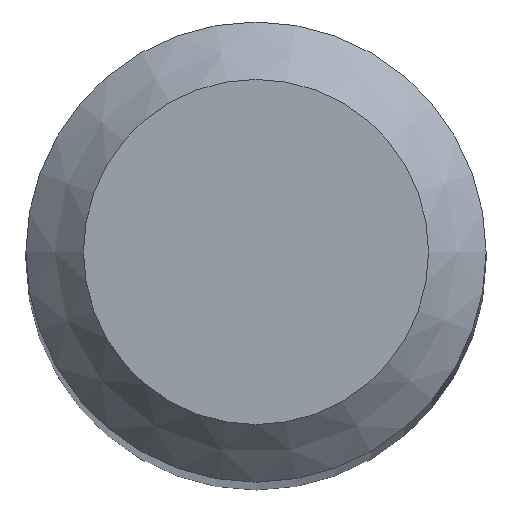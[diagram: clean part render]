
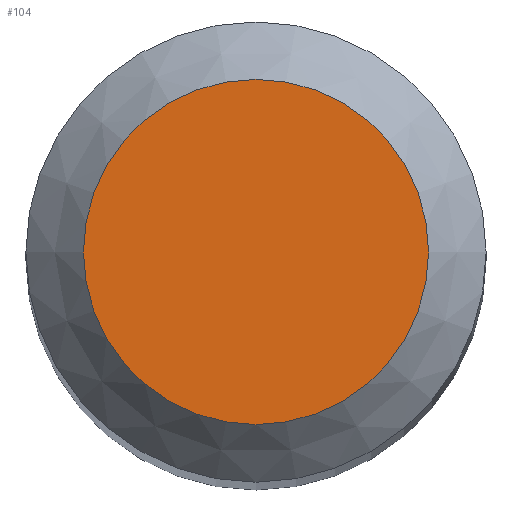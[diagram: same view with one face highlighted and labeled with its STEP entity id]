
A CAD part, top view. The second image highlights one B-rep face of the part: STEP entity #104.
In plain terms, the highlighted planar face has unit normal (0, 0, 1).
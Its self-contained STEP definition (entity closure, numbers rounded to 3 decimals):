
#88=CARTESIAN_POINT('',(1.5,0.0,48.0));
#89=DIRECTION('',(0.0,0.0,1.0));
#90=DIRECTION('',(1.0,0.0,0.0));
#91=AXIS2_PLACEMENT_3D('',#88,#89,#90);
#92=PLANE('',#91);
#93=CARTESIAN_POINT('',(-1.5,0.0,48.0));
#94=VERTEX_POINT('',#93);
#95=CARTESIAN_POINT('',(0.0,0.0,48.0));
#96=DIRECTION('',(0.0,0.0,-1.0));
#97=DIRECTION('',(-1.0,0.0,0.0));
#98=AXIS2_PLACEMENT_3D('',#95,#96,#97);
#99=CIRCLE('',#98,1.5);
#100=EDGE_CURVE('',#94,#94,#99,.T.);
#101=ORIENTED_EDGE('',*,*,#100,.F.);
#102=EDGE_LOOP('',(#101));
#103=FACE_OUTER_BOUND('',#102,.T.);
#104=ADVANCED_FACE('',(#103),#92,.T.);
